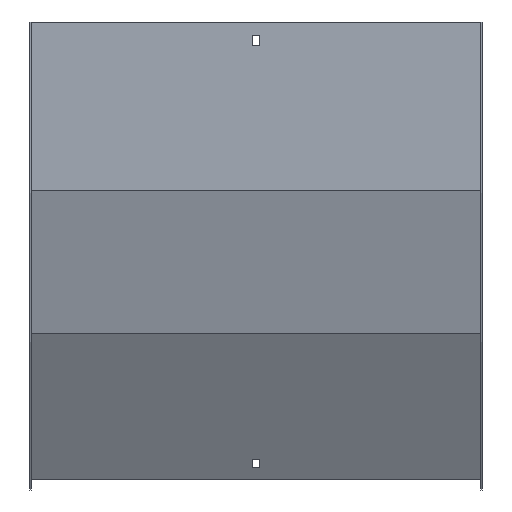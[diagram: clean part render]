
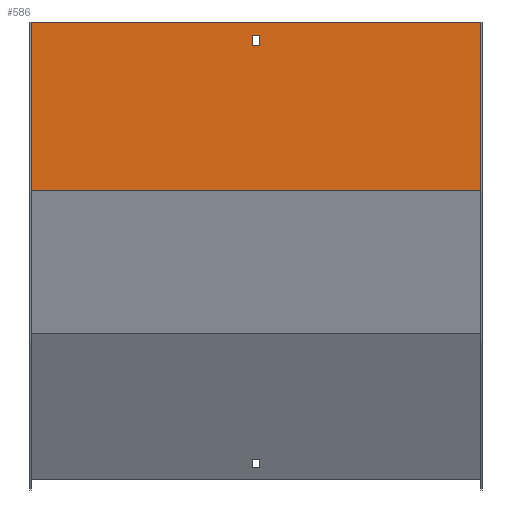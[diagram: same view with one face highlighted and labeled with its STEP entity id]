
A CAD part, front view. The second image highlights one B-rep face of the part: STEP entity #586.
In plain terms, the highlighted planar face has unit normal (0, -1, 0).
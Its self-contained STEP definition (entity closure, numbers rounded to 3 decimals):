
#17 = VECTOR ( 'NONE', #384, 1000. ) ;
#65 = CARTESIAN_POINT ( 'NONE',  ( -3.25, -1.5, 0. ) ) ;
#79 = CARTESIAN_POINT ( 'NONE',  ( 201.5, -1.5, 0. ) ) ;
#84 = EDGE_CURVE ( 'NONE', #234, #114, #441, .T. ) ;
#85 = DIRECTION ( 'NONE',  ( 0., 0., 1. ) ) ;
#102 = CARTESIAN_POINT ( 'NONE',  ( 201.5, -1.5, -12. ) ) ;
#103 = VERTEX_POINT ( 'NONE', #817 ) ;
#104 = CARTESIAN_POINT ( 'NONE',  ( 200., -1.5, 0. ) ) ;
#114 = VERTEX_POINT ( 'NONE', #300 ) ;
#117 = LINE ( 'NONE', #65, #204 ) ;
#123 = EDGE_CURVE ( 'NONE', #695, #331, #776, .T. ) ;
#159 = VECTOR ( 'NONE', #368, 1000. ) ;
#167 = EDGE_CURVE ( 'NONE', #481, #103, #699, .T. ) ;
#170 = LINE ( 'NONE', #823, #789 ) ;
#175 = CARTESIAN_POINT ( 'NONE',  ( 201.5, -1.5, -21. ) ) ;
#201 = ORIENTED_EDGE ( 'NONE', *, *, #736, .F. ) ;
#204 = VECTOR ( 'NONE', #774, 1000. ) ;
#207 = PLANE ( 'NONE',  #507 ) ;
#215 = EDGE_CURVE ( 'NONE', #331, #460, #252, .T. ) ;
#227 = ORIENTED_EDGE ( 'NONE', *, *, #215, .F. ) ;
#232 = CARTESIAN_POINT ( 'NONE',  ( 200., -1.5, 0. ) ) ;
#234 = VERTEX_POINT ( 'NONE', #852 ) ;
#252 = LINE ( 'NONE', #470, #853 ) ;
#260 = FACE_OUTER_BOUND ( 'NONE', #814, .T. ) ;
#265 = FACE_BOUND ( 'NONE', #665, .T. ) ;
#285 = LINE ( 'NONE', #561, #726 ) ;
#292 = DIRECTION ( 'NONE',  ( 0., 0., -1. ) ) ;
#298 = CARTESIAN_POINT ( 'NONE',  ( 3.25, -1.5, -12. ) ) ;
#300 = CARTESIAN_POINT ( 'NONE',  ( 3.25, -1.5, -21. ) ) ;
#331 = VERTEX_POINT ( 'NONE', #563 ) ;
#357 = LINE ( 'NONE', #422, #550 ) ;
#362 = ORIENTED_EDGE ( 'NONE', *, *, #713, .T. ) ;
#368 = DIRECTION ( 'NONE',  ( -1., 0., 0. ) ) ;
#371 = ORIENTED_EDGE ( 'NONE', *, *, #395, .F. ) ;
#384 = DIRECTION ( 'NONE',  ( 1., 0., 0. ) ) ;
#386 = ORIENTED_EDGE ( 'NONE', *, *, #123, .F. ) ;
#395 = EDGE_CURVE ( 'NONE', #114, #481, #357, .T. ) ;
#418 = CARTESIAN_POINT ( 'NONE',  ( -200., -1.5, 0. ) ) ;
#420 = VECTOR ( 'NONE', #292, 1000. ) ;
#422 = CARTESIAN_POINT ( 'NONE',  ( 3.25, -1.5, 0. ) ) ;
#437 = ORIENTED_EDGE ( 'NONE', *, *, #167, .F. ) ;
#441 = LINE ( 'NONE', #175, #17 ) ;
#460 = VERTEX_POINT ( 'NONE', #491 ) ;
#470 = CARTESIAN_POINT ( 'NONE',  ( 201.5, -1.5, -150.097 ) ) ;
#481 = VERTEX_POINT ( 'NONE', #298 ) ;
#491 = CARTESIAN_POINT ( 'NONE',  ( -200., -1.5, -150.097 ) ) ;
#507 = AXIS2_PLACEMENT_3D ( 'NONE', #79, #606, #85 ) ;
#523 = ORIENTED_EDGE ( 'NONE', *, *, #84, .F. ) ;
#550 = VECTOR ( 'NONE', #622, 1000. ) ;
#561 = CARTESIAN_POINT ( 'NONE',  ( 201.5, -1.5, 0. ) ) ;
#563 = CARTESIAN_POINT ( 'NONE',  ( 200., -1.5, -150.097 ) ) ;
#570 = VERTEX_POINT ( 'NONE', #418 ) ;
#586 = ADVANCED_FACE ( 'NONE', ( #260, #265 ), #207, .F. ) ;
#587 = DIRECTION ( 'NONE',  ( -1., 0., 0. ) ) ;
#606 = DIRECTION ( 'NONE',  ( 0., 1., 0. ) ) ;
#622 = DIRECTION ( 'NONE',  ( 0., 0., 1. ) ) ;
#657 = EDGE_CURVE ( 'NONE', #570, #460, #170, .T. ) ;
#665 = EDGE_LOOP ( 'NONE', ( #371, #523, #201, #437 ) ) ;
#695 = VERTEX_POINT ( 'NONE', #232 ) ;
#699 = LINE ( 'NONE', #102, #159 ) ;
#713 = EDGE_CURVE ( 'NONE', #695, #570, #285, .T. ) ;
#726 = VECTOR ( 'NONE', #749, 1000. ) ;
#736 = EDGE_CURVE ( 'NONE', #103, #234, #117, .T. ) ;
#749 = DIRECTION ( 'NONE',  ( -1., 0., 0. ) ) ;
#762 = DIRECTION ( 'NONE',  ( 0., 0., -1. ) ) ;
#774 = DIRECTION ( 'NONE',  ( 0., 0., -1. ) ) ;
#776 = LINE ( 'NONE', #104, #420 ) ;
#789 = VECTOR ( 'NONE', #762, 1000. ) ;
#814 = EDGE_LOOP ( 'NONE', ( #822, #227, #386, #362 ) ) ;
#817 = CARTESIAN_POINT ( 'NONE',  ( -3.25, -1.5, -12. ) ) ;
#822 = ORIENTED_EDGE ( 'NONE', *, *, #657, .T. ) ;
#823 = CARTESIAN_POINT ( 'NONE',  ( -200., -1.5, 0. ) ) ;
#852 = CARTESIAN_POINT ( 'NONE',  ( -3.25, -1.5, -21. ) ) ;
#853 = VECTOR ( 'NONE', #587, 1000. ) ;
